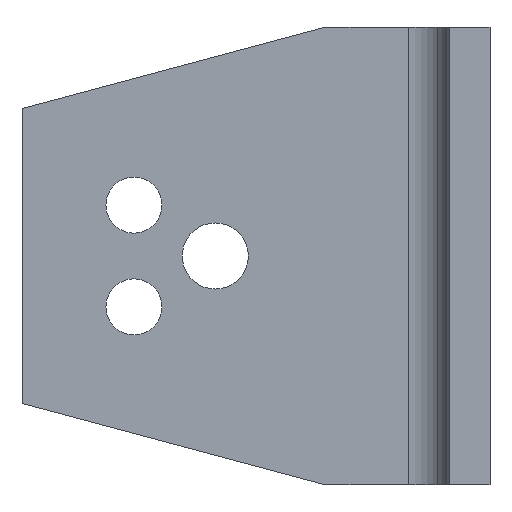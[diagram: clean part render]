
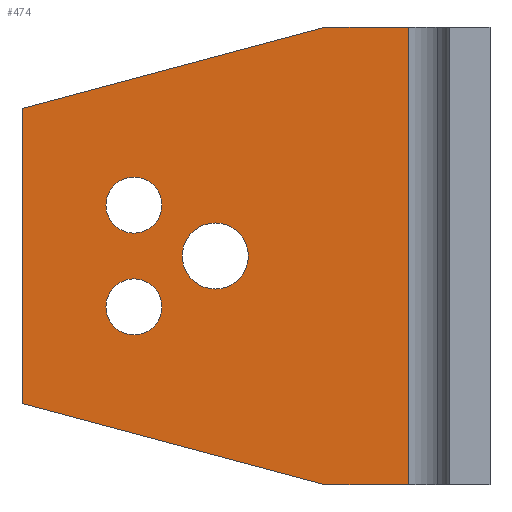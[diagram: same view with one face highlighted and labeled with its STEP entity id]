
A CAD part, left-side view. The second image highlights one B-rep face of the part: STEP entity #474.
In plain terms, the highlighted planar face has unit normal (-1, 0, 0).
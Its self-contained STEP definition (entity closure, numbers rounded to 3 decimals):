
#133=CARTESIAN_POINT('',(16.,7.,25.75));
#134=VERTEX_POINT('',#133);
#143=CARTESIAN_POINT('',(16.,7.,19.25));
#144=VERTEX_POINT('',#143);
#145=CARTESIAN_POINT('',(16.,7.,22.5));
#146=DIRECTION('',(1.0,0.0,0.0));
#147=DIRECTION('',(0.0,0.0,1.0));
#148=AXIS2_PLACEMENT_3D('',#145,#146,#147);
#149=CIRCLE('',#148,3.25);
#150=EDGE_CURVE('',#144,#134,#149,.T.);
#175=CARTESIAN_POINT('',(16.,15.,30.25));
#176=VERTEX_POINT('',#175);
#185=CARTESIAN_POINT('',(16.,15.,24.75));
#186=VERTEX_POINT('',#185);
#187=CARTESIAN_POINT('',(16.,15.,27.5));
#188=DIRECTION('',(1.0,0.0,0.0));
#189=DIRECTION('',(0.0,0.0,1.0));
#190=AXIS2_PLACEMENT_3D('',#187,#188,#189);
#191=CIRCLE('',#190,2.75);
#192=EDGE_CURVE('',#186,#176,#191,.T.);
#217=CARTESIAN_POINT('',(16.,15.0,20.25));
#218=VERTEX_POINT('',#217);
#227=CARTESIAN_POINT('',(16.,15.,14.75));
#228=VERTEX_POINT('',#227);
#229=CARTESIAN_POINT('',(16.,15.,17.5));
#230=DIRECTION('',(1.0,0.0,0.0));
#231=DIRECTION('',(0.0,0.0,1.0));
#232=AXIS2_PLACEMENT_3D('',#229,#230,#231);
#233=CIRCLE('',#232,2.75);
#234=EDGE_CURVE('',#228,#218,#233,.T.);
#259=CARTESIAN_POINT('',(16.,26.,8.));
#260=VERTEX_POINT('',#259);
#261=CARTESIAN_POINT('',(16.,-3.856,0.0));
#262=VERTEX_POINT('',#261);
#263=CARTESIAN_POINT('',(16.,26.,8.));
#264=DIRECTION('',(0.,-0.966,-0.259));
#265=VECTOR('',#264,30.91);
#266=LINE('',#263,#265);
#267=EDGE_CURVE('',#260,#262,#266,.T.);
#299=CARTESIAN_POINT('',(16.,-3.856,45.0));
#300=VERTEX_POINT('',#299);
#301=CARTESIAN_POINT('',(16.,26.,37.0));
#302=VERTEX_POINT('',#301);
#303=CARTESIAN_POINT('',(16.,-3.856,45.0));
#304=DIRECTION('',(0.,0.966,-0.259));
#305=VECTOR('',#304,30.91);
#306=LINE('',#303,#305);
#307=EDGE_CURVE('',#300,#302,#306,.T.);
#340=CARTESIAN_POINT('',(16.,26.,8.));
#341=DIRECTION('',(0.0,0.0,1.0));
#342=VECTOR('',#341,29.0);
#343=LINE('',#340,#342);
#344=EDGE_CURVE('',#260,#302,#343,.T.);
#362=CARTESIAN_POINT('',(16.,-12.,45.0));
#363=VERTEX_POINT('',#362);
#364=CARTESIAN_POINT('',(16.,-12.,45.0));
#365=DIRECTION('',(0.0,1.0,0.0));
#366=VECTOR('',#365,8.144);
#367=LINE('',#364,#366);
#368=EDGE_CURVE('',#363,#300,#367,.T.);
#419=CARTESIAN_POINT('',(16.0,-16.0,0.0));
#420=DIRECTION('',(-1.0,0.0,0.0));
#421=DIRECTION('',(0.0,0.0,1.0));
#422=AXIS2_PLACEMENT_3D('',#419,#420,#421);
#423=PLANE('',#422);
#424=ORIENTED_EDGE('',*,*,#267,.T.);
#425=CARTESIAN_POINT('',(16.,-12.,0.0));
#426=VERTEX_POINT('',#425);
#427=CARTESIAN_POINT('',(16.,-3.856,0.0));
#428=DIRECTION('',(0.0,-1.0,0.0));
#429=VECTOR('',#428,8.144);
#430=LINE('',#427,#429);
#431=EDGE_CURVE('',#262,#426,#430,.T.);
#432=ORIENTED_EDGE('',*,*,#431,.T.);
#433=CARTESIAN_POINT('',(16.,-12.,45.0));
#434=DIRECTION('',(0.0,0.0,-1.0));
#435=VECTOR('',#434,45.0);
#436=LINE('',#433,#435);
#437=EDGE_CURVE('',#363,#426,#436,.T.);
#438=ORIENTED_EDGE('',*,*,#437,.F.);
#439=ORIENTED_EDGE('',*,*,#368,.T.);
#440=ORIENTED_EDGE('',*,*,#307,.T.);
#441=ORIENTED_EDGE('',*,*,#344,.F.);
#442=EDGE_LOOP('',(#424,#432,#438,#439,#440,#441));
#443=FACE_OUTER_BOUND('',#442,.T.);
#444=ORIENTED_EDGE('',*,*,#150,.T.);
#445=CARTESIAN_POINT('',(16.,7.,22.5));
#446=DIRECTION('',(1.0,0.0,0.0));
#447=DIRECTION('',(0.0,0.0,1.0));
#448=AXIS2_PLACEMENT_3D('',#445,#446,#447);
#449=CIRCLE('',#448,3.25);
#450=EDGE_CURVE('',#134,#144,#449,.T.);
#451=ORIENTED_EDGE('',*,*,#450,.T.);
#452=EDGE_LOOP('',(#444,#451));
#453=FACE_BOUND('',#452,.T.);
#454=ORIENTED_EDGE('',*,*,#192,.T.);
#455=CARTESIAN_POINT('',(16.,15.,27.5));
#456=DIRECTION('',(1.0,0.0,0.0));
#457=DIRECTION('',(0.0,0.0,1.0));
#458=AXIS2_PLACEMENT_3D('',#455,#456,#457);
#459=CIRCLE('',#458,2.75);
#460=EDGE_CURVE('',#176,#186,#459,.T.);
#461=ORIENTED_EDGE('',*,*,#460,.T.);
#462=EDGE_LOOP('',(#454,#461));
#463=FACE_BOUND('',#462,.T.);
#464=ORIENTED_EDGE('',*,*,#234,.T.);
#465=CARTESIAN_POINT('',(16.,15.,17.5));
#466=DIRECTION('',(1.0,0.0,0.0));
#467=DIRECTION('',(0.0,0.0,1.0));
#468=AXIS2_PLACEMENT_3D('',#465,#466,#467);
#469=CIRCLE('',#468,2.75);
#470=EDGE_CURVE('',#218,#228,#469,.T.);
#471=ORIENTED_EDGE('',*,*,#470,.T.);
#472=EDGE_LOOP('',(#464,#471));
#473=FACE_BOUND('',#472,.T.);
#474=ADVANCED_FACE('',(#443,#453,#463,#473),#423,.T.);
